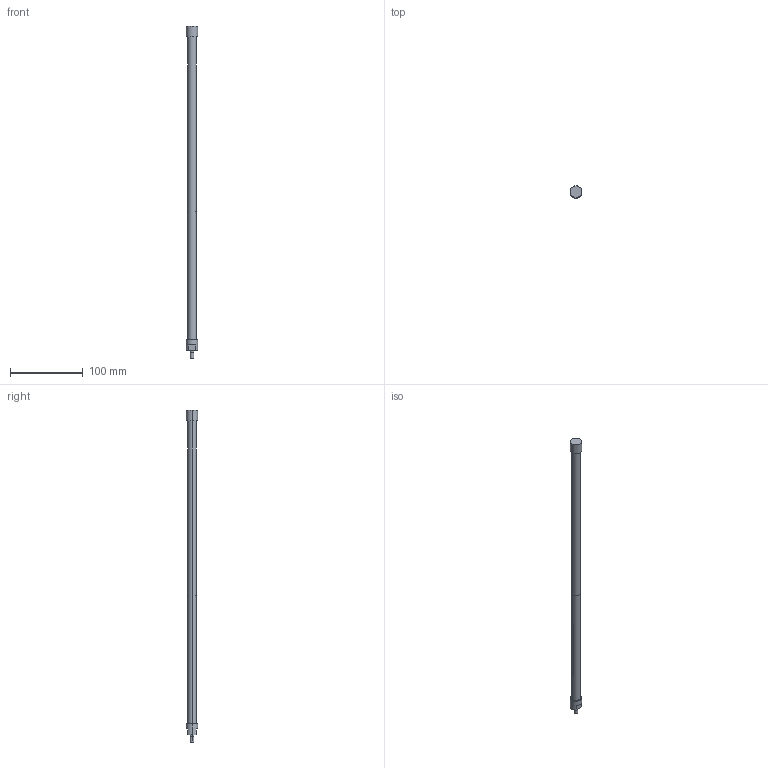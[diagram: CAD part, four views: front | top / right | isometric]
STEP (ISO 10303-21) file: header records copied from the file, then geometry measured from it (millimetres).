
FILE_DESCRIPTION(('STEP AP214'),'1');
FILE_NAME('ETT-R025M455.stp','2015-02-04T08:11:11',(' '),(' '),'Spatial InterOp 3D',' ',' ');
FILE_SCHEMA(('automotive_design'));
Length unit declared in the file: metre
Products named in the file (2): 1; 2
Bounding box: 16 x 16 x 456 mm (x, y, z)
Volume: 36318.8 mm3; surface area: 24292.5 mm2
Topology: 1 solids, 5 shells, 24 faces, 56 edges, 42 vertices
Faces by surface type: cylinder 12, plane 12
Entity records: 952 total; most frequent: DIRECTION 142, CARTESIAN_POINT 124, ORIENTED_EDGE 100, AXIS2_PLACEMENT_3D 60, EDGE_CURVE 56, VERTEX_POINT 42, CIRCLE 34, EDGE_LOOP 28
